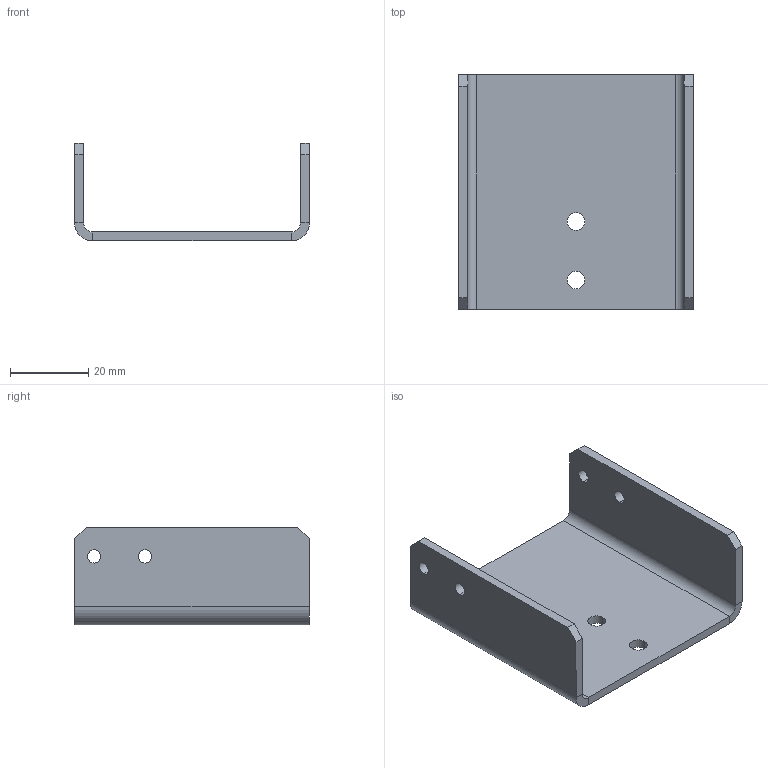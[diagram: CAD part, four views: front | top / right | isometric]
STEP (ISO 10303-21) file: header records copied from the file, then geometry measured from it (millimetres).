
FILE_DESCRIPTION (( 'STEP AP214' ), '1' );
FILE_NAME ('⑦_ｾﾝｻｰﾌﾞﾗｹｯﾄ.STEP', '2024-05-01T07:20:06', ( '' ), ( '' ), 'SwSTEP 2.0', 'SolidWorks 2023', '' );
FILE_SCHEMA (( 'AUTOMOTIVE_DESIGN' ));
Length unit declared in the file: millimetre
Products named in the file (1): ⑦_ｾﾝｻｰﾌﾞﾗｹｯﾄ
Bounding box: 60 x 60 x 25 mm (x, y, z)
Volume: 13938.4 mm3; surface area: 13014.7 mm2
Topology: 1 solids, 1 shells, 38 faces, 92 edges, 56 vertices
Faces by surface type: plane 22, cylinder 16
Entity records: 1147 total; most frequent: DIRECTION 202, CARTESIAN_POINT 187, ORIENTED_EDGE 184, EDGE_CURVE 92, AXIS2_PLACEMENT_3D 71, LINE 60, VECTOR 60, VERTEX_POINT 56
